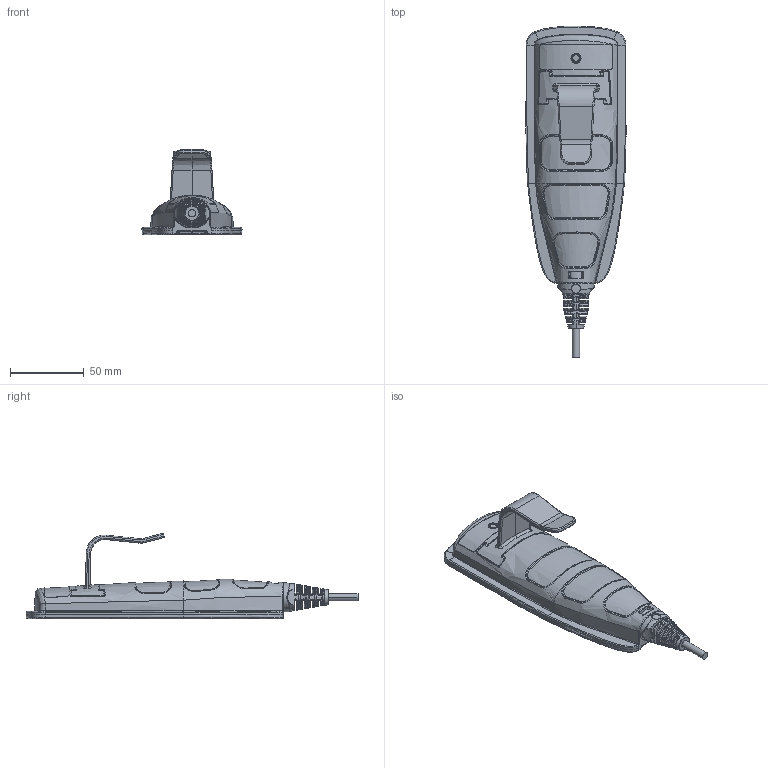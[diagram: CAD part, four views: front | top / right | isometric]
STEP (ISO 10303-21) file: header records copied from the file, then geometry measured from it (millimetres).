
FILE_DESCRIPTION((''),'2;1');
FILE_NAME('1034W4000','2019-03-20T11:27:46',('ti'),(''),'CREO PARAMETRIC BY PTC INC, 2018400','CREO PARAMETRIC BY PTC INC, 2018400','');
FILE_SCHEMA(('AUTOMOTIVE_DESIGN { 1 0 10303 214 1 1 1 1 }'));
Products named in the file (1): 1034W4000
Bounding box: 68.01 x 225.76 x 57.96 mm (x, y, z)
Volume: 176887.5 mm3; surface area: 41248.3 mm2
Topology: 2 solids, 2 shells, 1015 faces, 2396 edges, 1406 vertices
Faces by surface type: bspline 581, cylinder 208, plane 182, torus 14, sphere 13, extrusion 11, cone 6
Entity records: 73998 total; most frequent: CARTESIAN_POINT 54990, ORIENTED_EDGE 4784, DIRECTION 2680, EDGE_CURVE 2392, VERTEX_POINT 1406, B_SPLINE_CURVE_WITH_KNOTS 1216, AXIS2_PLACEMENT_3D 1059, EDGE_LOOP 1040
